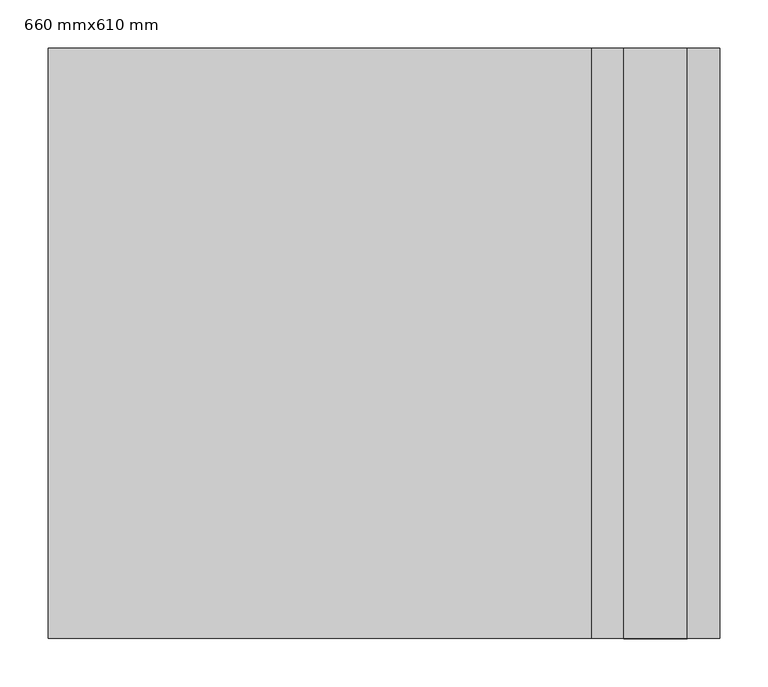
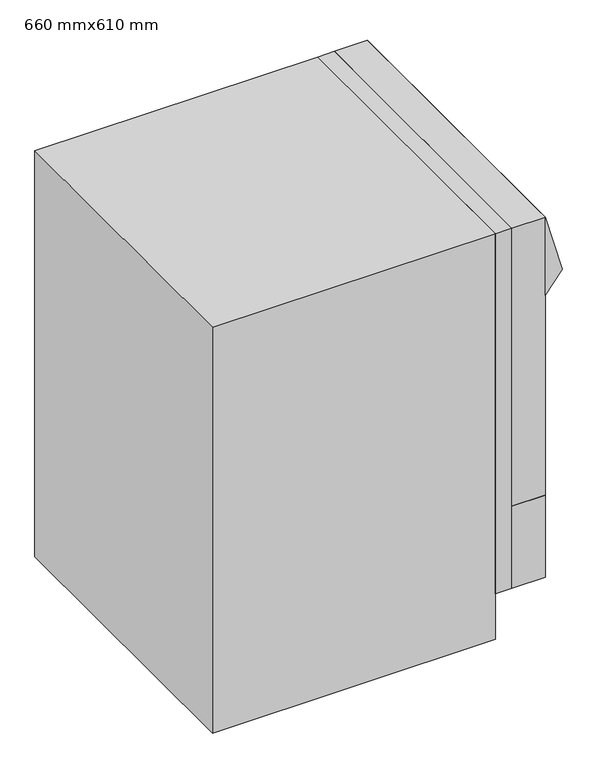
"""IFC4 building model written with IfcOpenShell, lengths in millimetres: flow terminal geometry, Lavavajillas CTE : 660 mmx610 mm."""

from ifc_helpers import new_model, si_unit, frame, origin, origin_with_axes, place, context, project, spatial, polyline, outline, extrude, source, transform, mapped, element, save


def flow_terminal_660_mmx610_mm_c472654d(model_context):
    return source(origin(), model_context, "Body", "SweptSolid", [
        extrude(outline(polyline([(660.0, -305.0), (594.11875, -305.0), (594.11875, 305.0), (660.0, 305.0), (660.0, -305.0)])), frame((0.0, 0.0, 95.25), z_axis=(0.0, 0.0, 1.0), x_axis=(1.0, 0.0, 0.0)), (0.0, 0.0, 1.0), 172.24375),
        extrude(outline(polyline([(560.78125, 305.0), (560.78125, -305.0), (0.0, -305.0), (0.0, 305.0), (560.78125, 305.0)])), origin_with_axes(), (0.0, 0.0, 1.0), 850.0),
        extrude(outline(polyline([(729.35, 693.3375), (850.0, 660.0), (685.69375, 660.0), (729.35, 693.3375)])), frame((0.0, -305.0, 0.0), z_axis=(0.0, 1.0, 0.0), x_axis=(0.0, 0.0, 1.0)), (0.0, 0.0, 1.0), 610.0),
        extrude(outline(polyline([(660.0, -305.0), (594.11875, -305.0), (594.11875, 305.0), (660.0, 305.0), (660.0, -305.0)])), frame((0.0, 0.0, 267.49375), z_axis=(0.0, 0.0, 1.0), x_axis=(1.0, 0.0, 0.0)), (0.0, 0.0, 1.0), 582.50625),
        extrude(outline(polyline([(594.11875, -305.0), (560.78125, -305.0), (560.78125, 305.0), (594.11875, 305.0), (594.11875, -305.0)])), frame((0.0, 0.0, 95.25), z_axis=(0.0, 0.0, 1.0), x_axis=(1.0, 0.0, 0.0)), (0.0, 0.0, 1.0), 754.75),
    ])


if __name__ == "__main__":
    model = new_model("IFC4")
    model_context = context("Model", 3, world=origin())
    ifc_project = project(units=[si_unit("LENGTHUNIT", "METRE", prefix="MILLI")], contexts=[model_context])
    site = spatial("IfcSite", under=ifc_project)
    building = spatial("IfcBuilding", under=site)
    placement = place(None, origin())
    flow_terminal_660_mmx610_mm_shape = flow_terminal_660_mmx610_mm_c472654d(model_context)
    element("IfcFlowTerminal", 1, ObjectType="Lavavajillas CTE : 660 mmx610 mm", at=placement, inside=building, context=model_context, shape_type="MappedRepresentation", body=[
        mapped(flow_terminal_660_mmx610_mm_shape, transform((0.0, 0.0, 0.0), x_axis=(1.0, 0.0, 0.0), y_axis=(0.0, 1.0, 0.0), z_axis=(0.0, 0.0, 1.0))),
    ])
    save(model, "model.ifc")
